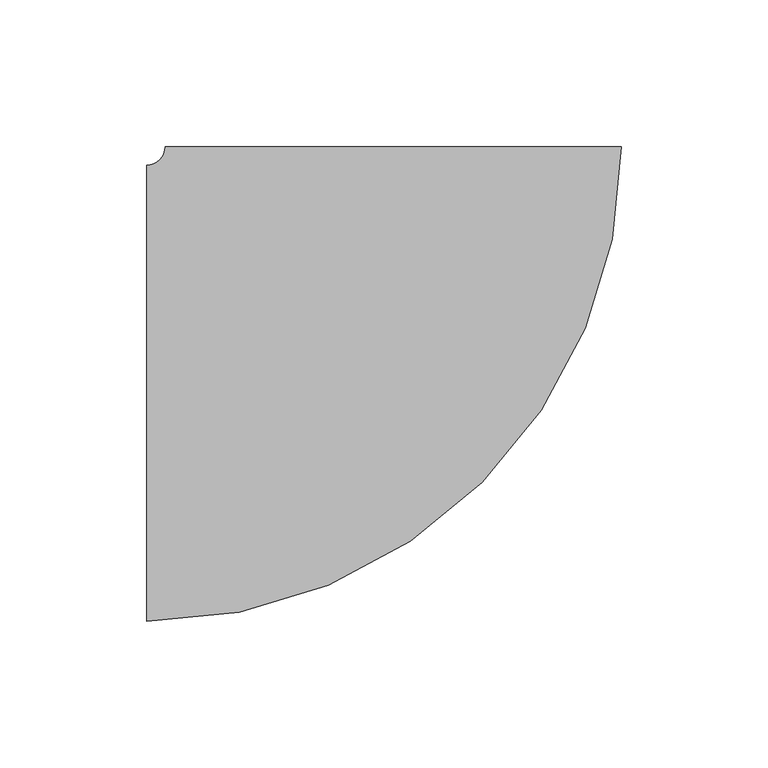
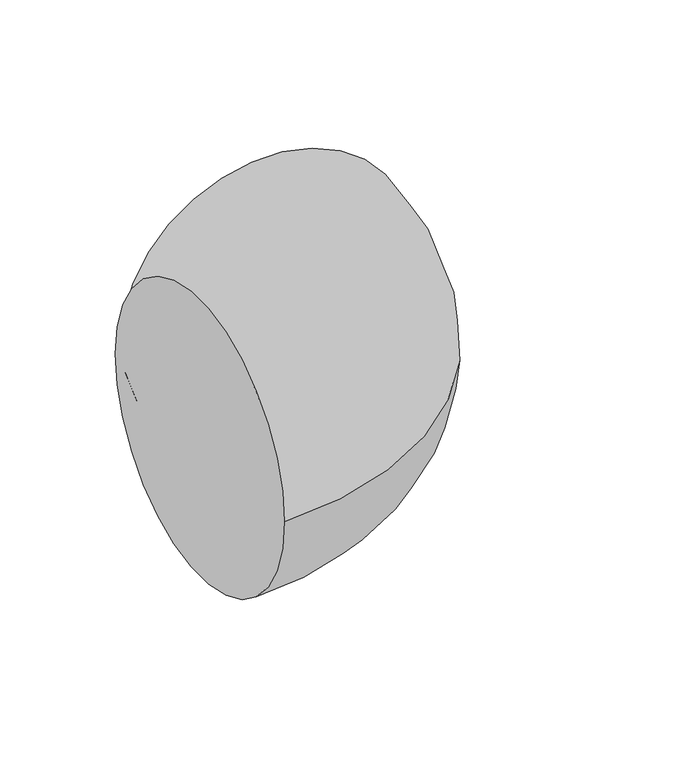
"""IFC4 building model written with IfcOpenShell, lengths in millimetres: pipe fitting geometry, M_Отвод - Типовой : Стандартное."""

from ifc_helpers import new_model, si_unit, point, frame, origin, place, context, project, spatial, circle_curve, ellipse_curve, trimmed, source, transform, mapped, element, save
from ifc_brep_helpers import plane_surface, revolved_surface, advanced_brep


def pipe_fitting_aa2ad946(model_context):
    return source(origin(), model_context, "Body", "AdvancedBrep", [
        advanced_brep(
        [(-84.1375, -77.7875, 0.0), (-84.1375, 77.7875, 0.0), (77.7875, 84.1375, 0.0), (-77.7875, 84.1375, 0.0)],
        [
            (0, 1, circle_curve(frame((-84.1375, 0.0, 0.0), z_axis=(-1.0, 0.0, 0.0), x_axis=(0.0, 1.0, 0.0)), 77.7875)),
            (1, 0, circle_curve(frame((-84.1375, 0.0, 0.0), z_axis=(-1.0, 0.0, 0.0), x_axis=(0.0, 1.0, 0.0)), 77.7875)),
            (2, 3, circle_curve(frame((0.0, 84.1375, 0.0), z_axis=(0.0, 1.0, 0.0), x_axis=(-1.0, 0.0, 0.0)), 77.7875)),
            (3, 2, circle_curve(frame((0.0, 84.1375, 0.0), z_axis=(0.0, 1.0, 0.0), x_axis=(-1.0, 0.0, 0.0)), 77.7875)),
            (3, 1, circle_curve(frame((-84.1375, 84.1375, 0.0), z_axis=(0.0, 0.0, -1.0), x_axis=(0.0, -1.0, 0.0)), 6.35)),
            (0, 2, circle_curve(frame((-84.1375, 84.1375, 0.0), z_axis=(0.0, 0.0, 1.0), x_axis=(0.0, -1.0, 0.0)), 161.925)),
        ],
        [
            plane_surface(frame((-84.1375, 0.0, 0.0), z_axis=(-1.0, 0.0, 0.0), x_axis=(0.0, 0.0, 1.0))),
            plane_surface(frame((0.0, 84.1375, 0.0), z_axis=(0.0, 1.0, 0.0), x_axis=(0.0, 0.0, 1.0))),
            revolved_surface(trimmed(ellipse_curve(frame((-84.1375, 0.0, 0.0), z_axis=(-1.0, 0.0, 0.0), x_axis=(0.0, 1.0, 0.0)), 77.7875, 77.7875), [point((-84.1375, -77.7875, 0.0))], [point((-84.1375, 77.7875, 0.0))], True, "CARTESIAN"), (-84.1375, 84.1375, 0.0), (0.0, 0.0, 1.0)),
            revolved_surface(trimmed(ellipse_curve(frame((-84.1375, 0.0, 0.0), z_axis=(-1.0, 0.0, 0.0), x_axis=(0.0, 1.0, 0.0)), 77.7875, 77.7875), [point((-84.1375, 77.7875, 0.0))], [point((-84.1375, -77.7875, 0.0))], True, "CARTESIAN"), (-84.1375, 84.1375, 0.0), (0.0, 0.0, 1.0)),
        ],
        [
            (0, [[1, 2]]),
            (1, [[3, 4]]),
            (2, [[5, -1, 6, -4]]),
            (3, [[-6, -2, -5, -3]]),
        ],
    ),
    ])


if __name__ == "__main__":
    model = new_model("IFC4")
    model_context = context("Model", 3, world=origin())
    ifc_project = project(units=[si_unit("LENGTHUNIT", "METRE", prefix="MILLI")], contexts=[model_context])
    site = spatial("IfcSite", under=ifc_project)
    building = spatial("IfcBuilding", under=site)
    placement = place(None, origin())
    pipe_fitting_shape = pipe_fitting_aa2ad946(model_context)
    element("IfcPipeFitting", 1, ObjectType="M_Отвод - Типовой : Стандартное", at=placement, inside=building, context=model_context, shape_type="MappedRepresentation", body=[
        mapped(pipe_fitting_shape, transform((0.0, 0.0, 0.0), x_axis=(1.0, 0.0, 0.0), y_axis=(0.0, 1.0, 0.0), z_axis=(0.0, 0.0, 1.0))),
    ])
    save(model, "model.ifc")
